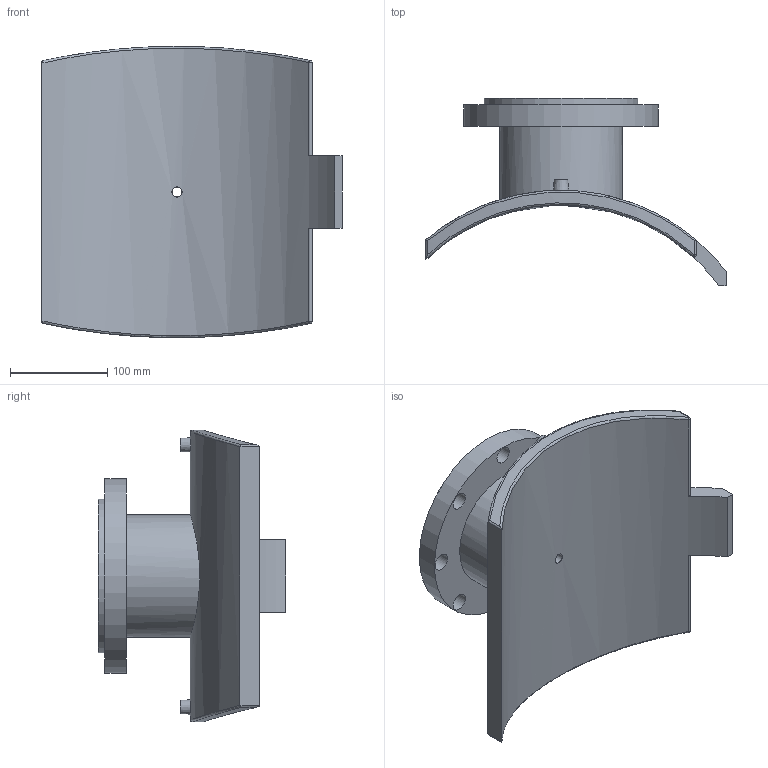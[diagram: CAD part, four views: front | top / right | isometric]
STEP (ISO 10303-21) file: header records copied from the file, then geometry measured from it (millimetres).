
FILE_DESCRIPTION(/* description */ ('PLASSON FLANGED BRANCH SADDLE 250-400X100'),/* implementation_level */ '2;1');
FILE_NAME(/* name */ 'C:\Dropbox\KIMPROJECTS-Inventor 2019\99-16-3568-Processing\ElectroFusion Fittings\495904_495903\stp\495904400100T.stp',/* time_stamp */ '2024-04-03T21:00:17+02:00',/* author */ ('KIM'),/* organization */ (''),/* preprocessor_version */ 'ST-DEVELOPER v17.2',/* originating_system */ 'Autodesk Inventor 2019',/* authorisation */ '');
FILE_SCHEMA (('AUTOMOTIVE_DESIGN { 1 0 10303 214 3 1 1 }'));
Length unit declared in the file: millimetre
Products named in the file (1): 495904400100T
Bounding box: 309 x 193.31 x 299.96 mm (x, y, z)
Volume: 2263374.1 mm3; surface area: 330540 mm2
Topology: 1 solids, 1 shells, 58 faces, 151 edges, 118 vertices
Faces by surface type: cylinder 31, plane 17, sphere 4, bspline 4, cone 2
Full cylindrical faces by diameter (mm): 4 x2, 10 x2, 10.4 x1, 16 x1, 18 x8, 100 x1, 126.4 x1, 158 x1, 200 x1
Entity records: 2442 total; most frequent: CARTESIAN_POINT 946, DIRECTION 297, ORIENTED_EDGE 274, EDGE_CURVE 137, AXIS2_PLACEMENT_3D 125, VERTEX_POINT 92, EDGE_LOOP 87, CIRCLE 70
